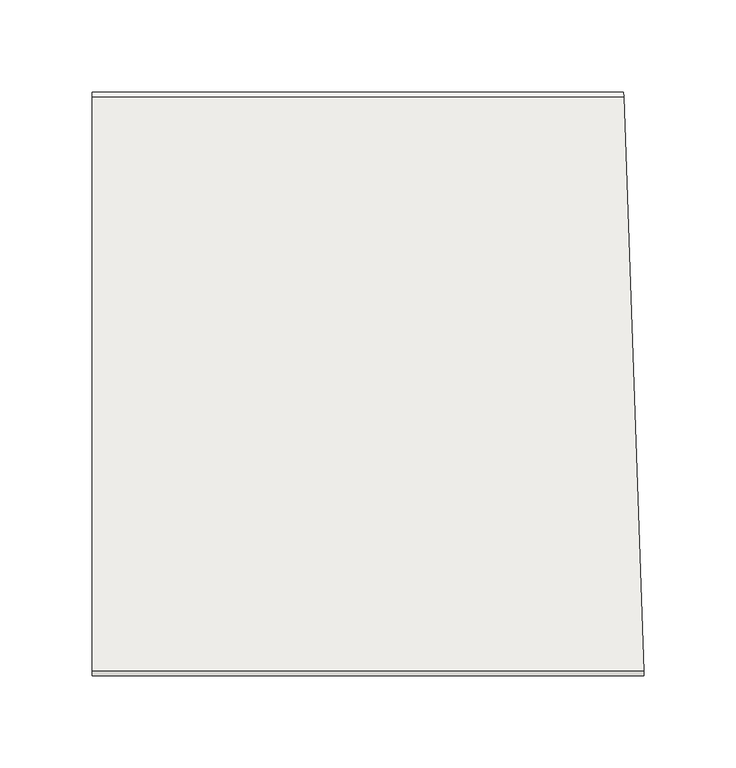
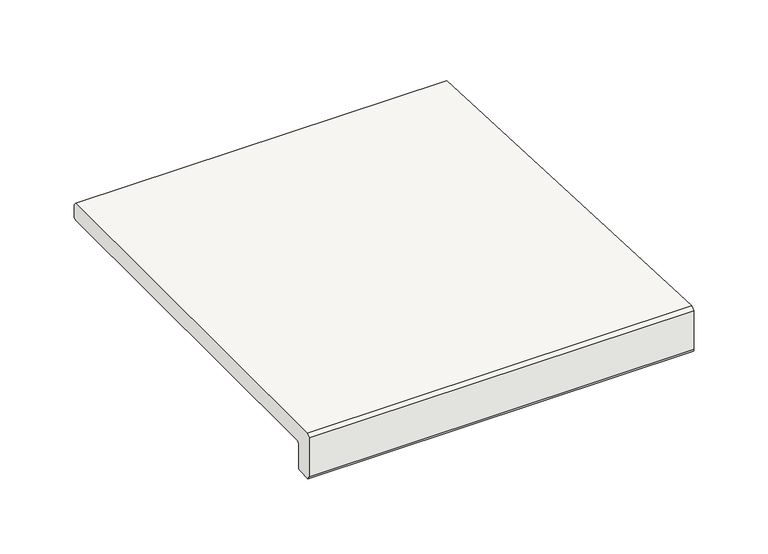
"""IFC4 building model written with IfcOpenShell, lengths in millimetres: slab geometry, ROSA GRES_L62 (corte) : Pieza L62_Serena_Ocra_Anti-Slip."""

from ifc_helpers import new_model, si_unit, frame, origin, place, context, project, spatial, polyline, circle_curve, ellipse_curve, source, transform, mapped, element, save
from ifc_brep_helpers import plane_surface, cylinder_surface, revolved_surface, advanced_brep


def slab_b8a3eb35(model_context):
    return source(origin(), model_context, "Body", "AdvancedBrep", [
        advanced_brep(
        [(0.0, 0.0, -20.5), (0.0, 0.0, 11.5), (0.0, 2.5, 14.0), (0.0, 314.5, 14.0), (0.0, 317.0, 11.5), (0.0, 317.0, 2.5), (0.0, 314.5, 0.0), (0.0, 16.5, 0.0), (0.0, 14.0, -2.5), (0.0, 14.0, -20.5), (0.0, 11.5, -23.0), (0.0, 2.5, -23.0), (299.8253962, 0.0, 11.5), (299.7380942, 2.5, 14.0), (288.8428141, 314.5, 14.0), (288.7555122, 317.0, 11.5), (299.4238073, 11.5, -23.0), (299.7380942, 2.5, -23.0), (288.7555122, 317.0, 2.5), (288.8428141, 314.5, 0.0), (299.8253962, 0.0, -20.5), (299.3365054, 14.0, -20.5), (299.2492035, 16.5, 0.0), (299.3365054, 14.0, -2.5)],
        [
            (0, 1),
            (1, 2),
            (2, 3),
            (3, 4),
            (4, 5),
            (5, 6, circle_curve(frame((0.0, 314.5, 2.5), z_axis=(-1.0, 0.0, 0.0), x_axis=(0.0, 0.0, -1.0)), 2.5)),
            (6, 7),
            (7, 8, circle_curve(frame((0.0, 16.5, -2.5), z_axis=(1.0, 0.0, 0.0), x_axis=(0.0, 0.0, -1.0)), 2.5)),
            (8, 9),
            (9, 10, circle_curve(frame((0.0, 11.5, -20.5), z_axis=(-1.0, 0.0, 0.0), x_axis=(0.0, 0.0, -1.0)), 2.5)),
            (10, 11),
            (11, 0, circle_curve(frame((0.0, 2.5, -20.5), z_axis=(-1.0, 0.0, 0.0), x_axis=(0.0, 0.0, -1.0)), 2.5)),
            (1, 12),
            (12, 13),
            (13, 2),
            (3, 14),
            (14, 15),
            (15, 4),
            (10, 16),
            (16, 17),
            (17, 11),
            (5, 18),
            (18, 19, ellipse_curve(frame((288.8428141, 314.5, 2.5), z_axis=(-0.9993908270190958, -0.03489949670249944, 0.0), x_axis=(-0.03489949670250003, 0.9993908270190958, 0.0)), 2.5015239, 2.5)),
            (19, 6),
            (15, 18),
            (0, 20),
            (20, 12),
            (17, 20, ellipse_curve(frame((299.7380942, 2.5, -20.5), z_axis=(-0.9993908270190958, -0.03489949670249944, 0.0), x_axis=(-0.03489949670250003, 0.9993908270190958, 0.0)), 2.5015239, 2.5)),
            (9, 21),
            (21, 16, ellipse_curve(frame((299.4238073, 11.5, -20.5), z_axis=(-0.9993908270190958, -0.03489949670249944, 0.0), x_axis=(-0.03489949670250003, 0.9993908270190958, 0.0)), 2.5015239, 2.5)),
            (13, 14),
            (19, 22),
            (22, 7),
            (22, 23, ellipse_curve(frame((299.2492035, 16.5, -2.5), z_axis=(0.9993908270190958, 0.03489949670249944, 0.0), x_axis=(0.03489949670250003, -0.9993908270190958, 0.0)), 2.5015239, 2.5)),
            (23, 8),
            (23, 21),
        ],
        [
            plane_surface(frame((0.0, 0.0, 0.0), z_axis=(-1.0, 0.0, 0.0), x_axis=(0.0, 0.0, 1.0))),
            plane_surface(frame((0.0, 0.0, 11.5), z_axis=(0.0, -0.707106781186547, 0.7071067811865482), x_axis=(1.0, 0.0, 0.0))),
            plane_surface(frame((0.0, 314.5, 14.0), z_axis=(0.0, 0.707106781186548, 0.707106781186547), x_axis=(1.0, 0.0, 0.0))),
            plane_surface(frame((0.0, 11.5, -23.0), z_axis=(0.0, 0.0, -1.0), x_axis=(1.0, 0.0, 0.0))),
            cylinder_surface(frame((0.0, 314.5, 2.5), z_axis=(-1.0, 0.0, 0.0), x_axis=(0.0, 0.0, -1.0)), 2.5),
            plane_surface(frame((0.0, 317.0, 11.5), z_axis=(0.0, 1.0, 0.0), x_axis=(1.0, 0.0, 0.0))),
            plane_surface(frame((0.0, 0.0, -20.5), z_axis=(0.0, -1.0, 0.0), x_axis=(1.0, 0.0, 0.0))),
            cylinder_surface(frame((0.0, 2.5, -20.5), z_axis=(-1.0, 0.0, 0.0), x_axis=(0.0, 0.0, -1.0)), 2.5),
            cylinder_surface(frame((0.0, 11.5, -20.5), z_axis=(-1.0, 0.0, 0.0), x_axis=(0.0, 0.0, -1.0)), 2.5),
            plane_surface(frame((0.0, 2.5, 14.0), z_axis=(0.0, 0.0, 1.0), x_axis=(1.0, 0.0, 0.0))),
            plane_surface(frame((0.0, 314.5, 0.0), z_axis=(0.0, 0.0, -1.0), x_axis=(1.0, 0.0, 0.0))),
            revolved_surface(polyline([(299.3365054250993, 16.5, -5.0), (0.0, 16.5, -5.0)]), (0.0, 16.5, -2.5), (1.0, 0.0, 0.0)),
            plane_surface(frame((0.0, 14.0, -2.5), z_axis=(0.0, 1.0, 0.0), x_axis=(1.0, 0.0, 0.0))),
            plane_surface(frame((288.5809084, 322.0, 86.9871832), z_axis=(0.9993908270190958, 0.03489949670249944, 0.0), x_axis=(0.0, 0.0, -1.0))),
        ],
        [
            (0, [[1, 2, 3, 4, 5, 6, 7, 8, 9, 10, 11, 12]]),
            (1, [[-2, 13, 14, 15]]),
            (2, [[-4, 16, 17, 18]]),
            (3, [[-11, 19, 20, 21]]),
            (4, [[-6, 22, 23, 24]]),
            (5, [[-5, -18, 25, -22]]),
            (6, [[-1, 26, 27, -13]]),
            (7, [[-12, -21, 28, -26]]),
            (8, [[-10, 29, 30, -19]]),
            (9, [[-3, -15, 31, -16]]),
            (10, [[-7, -24, 32, 33]]),
            (11, [[-8, -33, 34, 35]]),
            (12, [[-9, -35, 36, -29]]),
            (13, [[-27, -28, -20, -30, -36, -34, -32, -23, -25, -17, -31, -14]]),
        ],
    ),
    ])


if __name__ == "__main__":
    model = new_model("IFC4")
    model_context = context("Model", 3, world=origin())
    ifc_project = project(units=[si_unit("LENGTHUNIT", "METRE", prefix="MILLI")], contexts=[model_context])
    site = spatial("IfcSite", under=ifc_project)
    building = spatial("IfcBuilding", under=site)
    placement = place(None, origin())
    slab_shape = slab_b8a3eb35(model_context)
    element("IfcSlab", 1, ObjectType="ROSA GRES_L62 (corte) : Pieza L62_Serena_Ocra_Anti-Slip", at=placement, inside=building, context=model_context, shape_type="MappedRepresentation", body=[
        mapped(slab_shape, transform((0.0, 0.0, 0.0), x_axis=(1.0, 0.0, 0.0), y_axis=(0.0, 1.0, 0.0), z_axis=(0.0, 0.0, 1.0))),
    ])
    save(model, "model.ifc")
